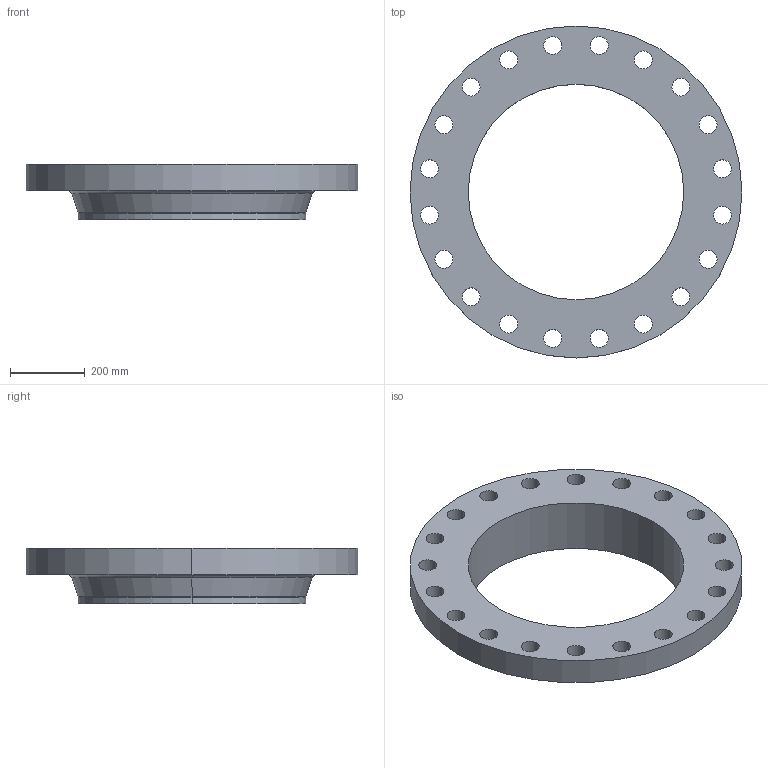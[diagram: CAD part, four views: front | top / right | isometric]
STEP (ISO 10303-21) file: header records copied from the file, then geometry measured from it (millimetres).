
FILE_DESCRIPTION (( 'STEP AP214' ), '1' );
FILE_NAME ('PN40 DN600 Type 11 - Type A Face.STEP', '2018-12-29T04:44:22', ( '' ), ( '' ), 'SwSTEP 2.0', 'SolidWorks 2019', '' );
FILE_SCHEMA (( 'AUTOMOTIVE_DESIGN' ));
Length unit declared in the file: millimetre
Products named in the file (1): PN40 DN600 Type 11 - Type A Face
Bounding box: 890 x 890 x 150 mm (x, y, z)
Volume: 26779392 mm3; surface area: 1454049.9 mm2
Topology: 1 solids, 1 shells, 55 faces, 150 edges, 98 vertices
Faces by surface type: cylinder 46, torus 4, plane 3, cone 2
Entity records: 1916 total; most frequent: DIRECTION 364, CARTESIAN_POINT 304, ORIENTED_EDGE 300, AXIS2_PLACEMENT_3D 158, EDGE_CURVE 150, CIRCLE 102, EDGE_LOOP 98, VERTEX_POINT 98
